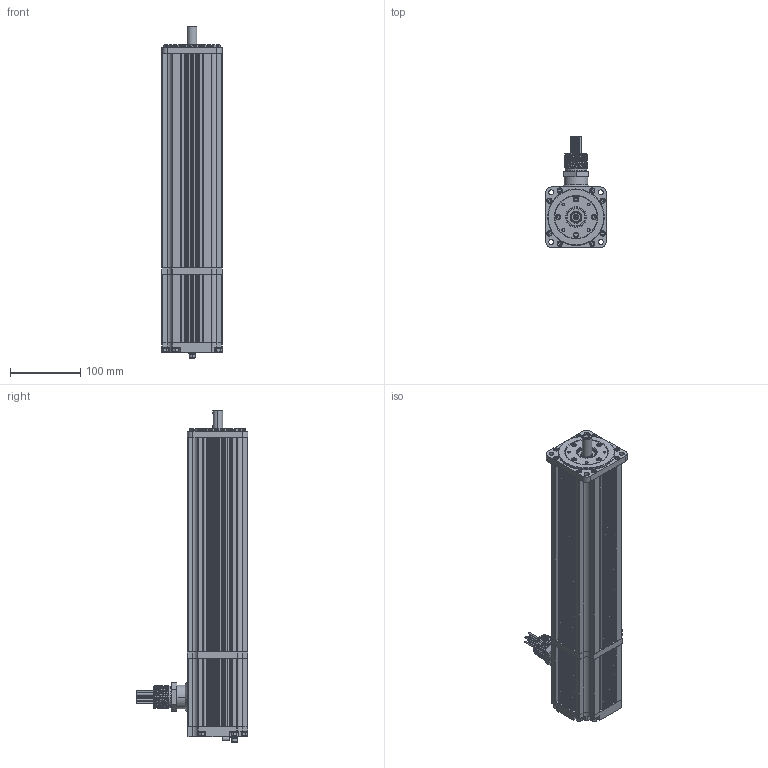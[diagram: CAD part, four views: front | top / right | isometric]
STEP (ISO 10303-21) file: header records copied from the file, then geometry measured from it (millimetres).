
FILE_DESCRIPTION (( 'STEP AP203' ), '1' );
FILE_NAME ('M433-MNNB-EP08.STEP', '2020-05-07T20:06:44', ( '' ), ( '' ), 'SwSTEP 2.0', 'SolidWorks 2019', '' );
FILE_SCHEMA (( 'CONFIG_CONTROL_DESIGN' ));
Length unit declared in the file: inch
Products named in the file (1): M433-MNNB-EP08
Bounding box: 86 x 159.08 x 472.59 mm (x, y, z)
Volume: 1474226.3 mm3; surface area: 462713.3 mm2
Topology: 51 solids, 51 shells, 2182 faces, 5232 edges, 3272 vertices
Faces by surface type: cylinder 933, plane 731, cone 368, torus 131, bspline 19
Entity records: 71899 total; most frequent: CARTESIAN_POINT 19942, DIRECTION 11545, ORIENTED_EDGE 10300, EDGE_CURVE 5150, AXIS2_PLACEMENT_3D 4515, VERTEX_POINT 3272, LINE 2515, VECTOR 2515
